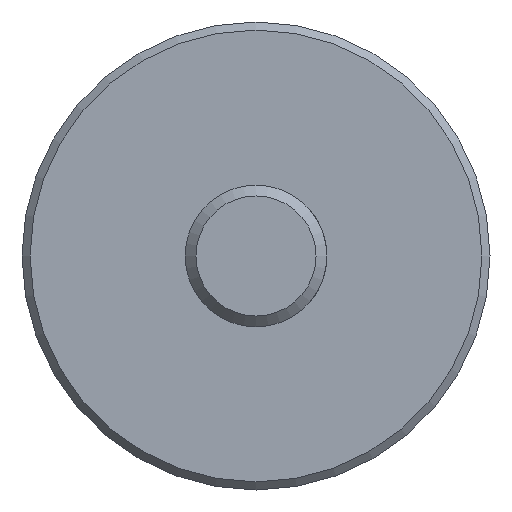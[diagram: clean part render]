
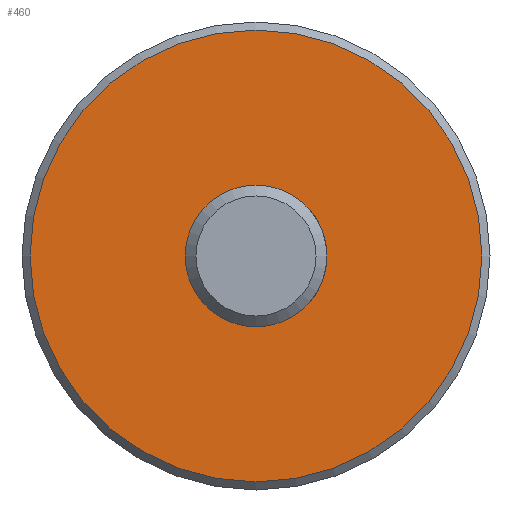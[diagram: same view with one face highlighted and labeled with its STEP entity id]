
A CAD part, front view. The second image highlights one B-rep face of the part: STEP entity #460.
In plain terms, the highlighted planar face has unit normal (0, -1, 0).
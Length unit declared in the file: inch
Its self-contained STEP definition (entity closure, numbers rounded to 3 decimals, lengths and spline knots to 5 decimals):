
#1 = ORIENTED_EDGE ( 'NONE', *, *, #433, .F. ) ;
#9 = AXIS2_PLACEMENT_3D ( 'NONE', #358, #484, #218 ) ;
#44 = ORIENTED_EDGE ( 'NONE', *, *, #177, .T. ) ;
#47 = AXIS2_PLACEMENT_3D ( 'NONE', #244, #199, #387 ) ;
#78 = PLANE ( 'NONE',  #9 ) ;
#92 = VERTEX_POINT ( 'NONE', #132 ) ;
#132 = CARTESIAN_POINT ( 'NONE',  ( 0., 3.33, 0.3937 ) ) ;
#161 = DIRECTION ( 'NONE',  ( 0., 1., 0. ) ) ;
#177 = EDGE_CURVE ( 'NONE', #92, #92, #183, .T. ) ;
#183 = CIRCLE ( 'NONE', #514, 0.3937 ) ;
#192 = EDGE_LOOP ( 'NONE', ( #44 ) ) ;
#199 = DIRECTION ( 'NONE',  ( 0., 1., 0. ) ) ;
#218 = DIRECTION ( 'NONE',  ( 0., 0., 1. ) ) ;
#244 = CARTESIAN_POINT ( 'NONE',  ( 0., 3.33, 0. ) ) ;
#261 = FACE_BOUND ( 'NONE', #192, .T. ) ;
#266 = CIRCLE ( 'NONE', #47, 1.255 ) ;
#272 = DIRECTION ( 'NONE',  ( 0., 0., 1. ) ) ;
#295 = EDGE_LOOP ( 'NONE', ( #1 ) ) ;
#307 = FACE_OUTER_BOUND ( 'NONE', #295, .T. ) ;
#358 = CARTESIAN_POINT ( 'NONE',  ( 0.3937, 3.33, 0. ) ) ;
#363 = VERTEX_POINT ( 'NONE', #417 ) ;
#387 = DIRECTION ( 'NONE',  ( 0., 0., 1. ) ) ;
#417 = CARTESIAN_POINT ( 'NONE',  ( 0., 3.33, 1.255 ) ) ;
#433 = EDGE_CURVE ( 'NONE', #363, #363, #266, .T. ) ;
#460 = ADVANCED_FACE ( 'NONE', ( #307, #261 ), #78, .F. ) ;
#484 = DIRECTION ( 'NONE',  ( 0., 1., 0. ) ) ;
#492 = CARTESIAN_POINT ( 'NONE',  ( 0., 3.33, 0. ) ) ;
#514 = AXIS2_PLACEMENT_3D ( 'NONE', #492, #161, #272 ) ;
